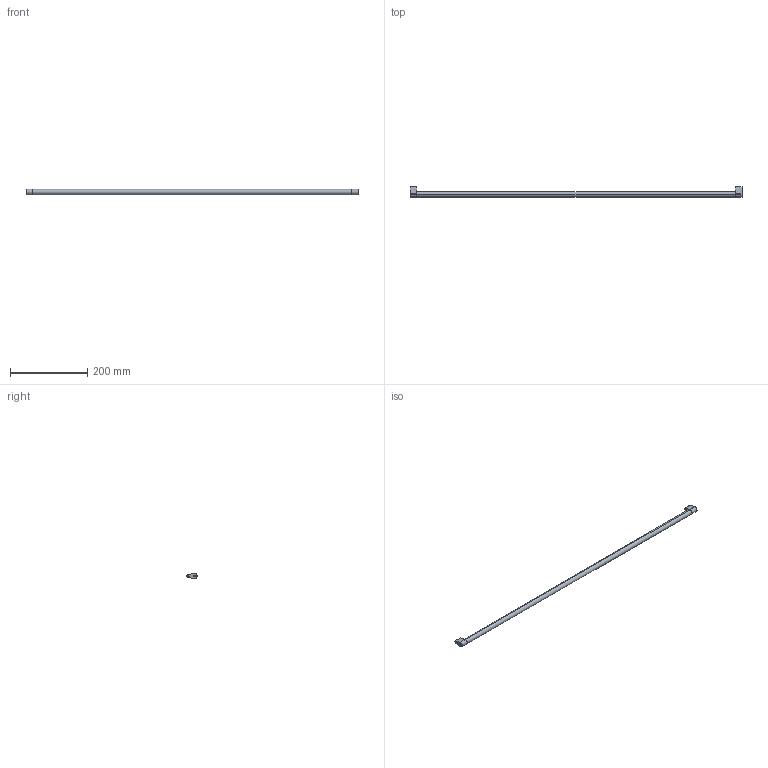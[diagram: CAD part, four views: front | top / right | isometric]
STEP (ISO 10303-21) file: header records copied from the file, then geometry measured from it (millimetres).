
FILE_DESCRIPTION (( 'STEP AP214' ), '1' );
FILE_NAME ('_Synchronisationseinheit Nova Pro KAB950_S19.step', '2010-07-08T13:58:49', ( 'grass' ), ( '' ), 'SwSTEP 2.0', 'SolidWorks 2010', '' );
FILE_SCHEMA (( 'AUTOMOTIVE_DESIGN' ));
Length unit declared in the file: millimetre
Products named in the file (1): _Synchronisationseinheit Nova Pro KAB950_S19
Bounding box: 859 x 26.5 x 14 mm (x, y, z)
Volume: 135919.6 mm3; surface area: 40627.8 mm2
Topology: 3 solids, 3 shells, 36 faces, 78 edges, 52 vertices
Faces by surface type: cylinder 18, plane 18
Entity records: 1050 total; most frequent: DIRECTION 188, CARTESIAN_POINT 167, ORIENTED_EDGE 156, EDGE_CURVE 78, AXIS2_PLACEMENT_3D 73, VERTEX_POINT 52, LINE 42, VECTOR 42
